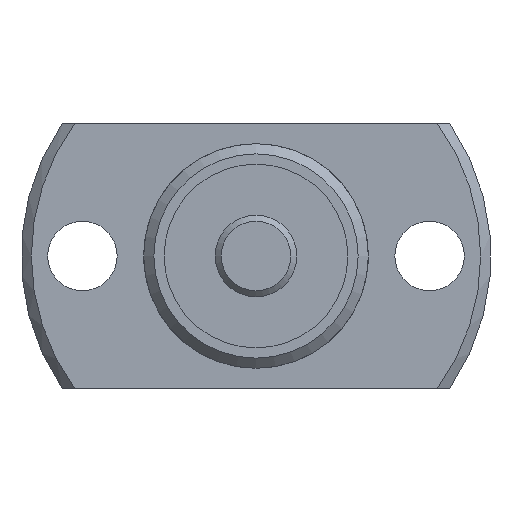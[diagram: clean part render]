
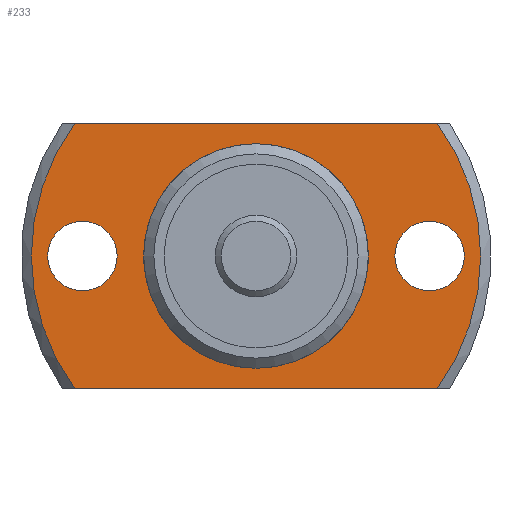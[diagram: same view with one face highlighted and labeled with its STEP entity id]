
A CAD part, left-side view. The second image highlights one B-rep face of the part: STEP entity #233.
In plain terms, the highlighted planar face has unit normal (-1, 0, 0).
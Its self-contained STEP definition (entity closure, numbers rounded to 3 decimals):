
#233 = ADVANCED_FACE( '', ( #400, #401, #402, #403 ), #404, .F. );
#400 = FACE_OUTER_BOUND( '', #578, .T. );
#401 = FACE_BOUND( '', #579, .T. );
#402 = FACE_BOUND( '', #580, .T. );
#403 = FACE_BOUND( '', #581, .T. );
#404 = PLANE( '', #582 );
#578 = EDGE_LOOP( '', ( #1054, #1055, #1056, #1057 ) );
#579 = EDGE_LOOP( '', ( #1058 ) );
#580 = EDGE_LOOP( '', ( #1059 ) );
#581 = EDGE_LOOP( '', ( #1060 ) );
#582 = AXIS2_PLACEMENT_3D( '', #1061, #1062, #1063 );
#1054 = ORIENTED_EDGE( '', *, *, #1184, .F. );
#1055 = ORIENTED_EDGE( '', *, *, #1240, .T. );
#1056 = ORIENTED_EDGE( '', *, *, #1251, .F. );
#1057 = ORIENTED_EDGE( '', *, *, #1178, .T. );
#1058 = ORIENTED_EDGE( '', *, *, #1236, .T. );
#1059 = ORIENTED_EDGE( '', *, *, #1234, .T. );
#1060 = ORIENTED_EDGE( '', *, *, #1252, .T. );
#1061 = CARTESIAN_POINT( '', ( 15., 5.3, 0. ) );
#1062 = DIRECTION( '', ( 1., 0., 0. ) );
#1063 = DIRECTION( '', ( 0., 0., -1. ) );
#1178 = EDGE_CURVE( '', #1387, #1385, #1388, .T. );
#1184 = EDGE_CURVE( '', #1398, #1385, #1399, .T. );
#1234 = EDGE_CURVE( '', #1478, #1478, #1479, .T. );
#1236 = EDGE_CURVE( '', #1482, #1482, #1483, .T. );
#1240 = EDGE_CURVE( '', #1398, #1489, #1491, .T. );
#1251 = EDGE_CURVE( '', #1387, #1489, #1506, .T. );
#1252 = EDGE_CURVE( '', #1507, #1507, #1508, .T. );
#1385 = VERTEX_POINT( '', #1704 );
#1387 = VERTEX_POINT( '', #1709 );
#1388 = LINE( '', #1710, #1711 );
#1398 = VERTEX_POINT( '', #1732 );
#1399 = CIRCLE( '', #1733, 11. );
#1478 = VERTEX_POINT( '', #1854 );
#1479 = CIRCLE( '', #1855, 1.7 );
#1482 = VERTEX_POINT( '', #1858 );
#1483 = CIRCLE( '', #1859, 1.7 );
#1489 = VERTEX_POINT( '', #1866 );
#1491 = LINE( '', #1871, #1872 );
#1506 = CIRCLE( '', #1895, 11. );
#1507 = VERTEX_POINT( '', #1896 );
#1508 = CIRCLE( '', #1897, 5.3 );
#1704 = CARTESIAN_POINT( '', ( 15., 8.874, 6.5 ) );
#1709 = CARTESIAN_POINT( '', ( 15., -8.874, 6.5 ) );
#1710 = CARTESIAN_POINT( '', ( 15., 5.3, 6.5 ) );
#1711 = VECTOR( '', #2047, 1000. );
#1732 = CARTESIAN_POINT( '', ( 15., 8.874, -6.5 ) );
#1733 = AXIS2_PLACEMENT_3D( '', #2050, #2051, #2052 );
#1854 = CARTESIAN_POINT( '', ( 15., -8.5, -1.7 ) );
#1855 = AXIS2_PLACEMENT_3D( '', #2142, #2143, #2144 );
#1858 = CARTESIAN_POINT( '', ( 15., 8.5, -1.7 ) );
#1859 = AXIS2_PLACEMENT_3D( '', #2148, #2149, #2150 );
#1866 = CARTESIAN_POINT( '', ( 15., -8.874, -6.5 ) );
#1871 = CARTESIAN_POINT( '', ( 15., 5.3, -6.5 ) );
#1872 = VECTOR( '', #2155, 1000. );
#1895 = AXIS2_PLACEMENT_3D( '', #2176, #2177, #2178 );
#1896 = CARTESIAN_POINT( '', ( 15., 0., -5.3 ) );
#1897 = AXIS2_PLACEMENT_3D( '', #2179, #2180, #2181 );
#2047 = DIRECTION( '', ( 0., 1., 0. ) );
#2050 = CARTESIAN_POINT( '', ( 15., 0., 0. ) );
#2051 = DIRECTION( '', ( 1., 0., 0. ) );
#2052 = DIRECTION( '', ( 0., 0., -1. ) );
#2142 = CARTESIAN_POINT( '', ( 15., -8.5, 0. ) );
#2143 = DIRECTION( '', ( 1., 0., 0. ) );
#2144 = DIRECTION( '', ( 0., 0., -1. ) );
#2148 = CARTESIAN_POINT( '', ( 15., 8.5, 0. ) );
#2149 = DIRECTION( '', ( 1., 0., 0. ) );
#2150 = DIRECTION( '', ( 0., 0., -1. ) );
#2155 = DIRECTION( '', ( 0., -1., 0. ) );
#2176 = CARTESIAN_POINT( '', ( 15., 0., 0. ) );
#2177 = DIRECTION( '', ( 1., 0., 0. ) );
#2178 = DIRECTION( '', ( 0., 0., -1. ) );
#2179 = CARTESIAN_POINT( '', ( 15., 0., 0. ) );
#2180 = DIRECTION( '', ( 1., 0., 0. ) );
#2181 = DIRECTION( '', ( 0., 0., -1. ) );
